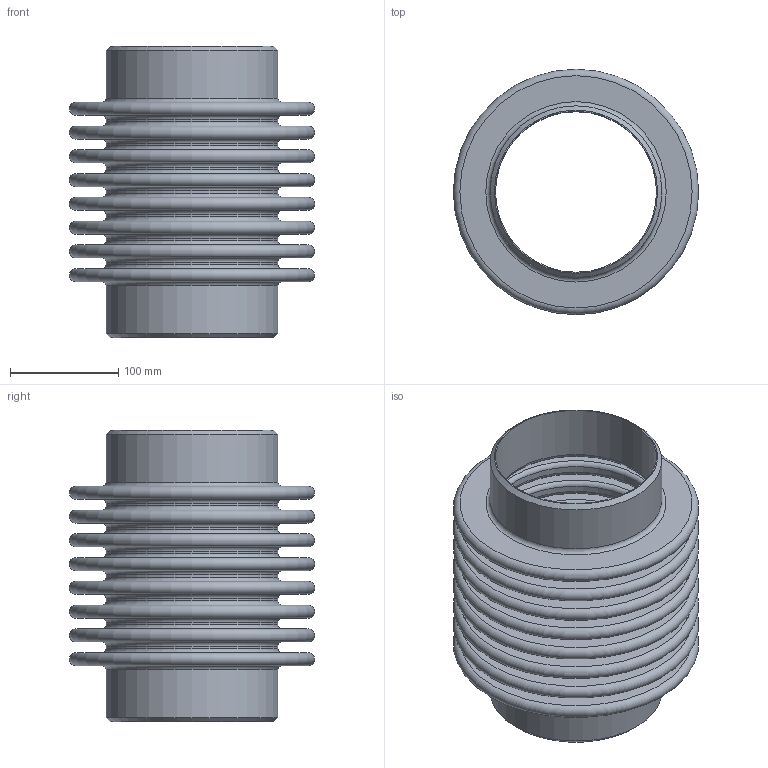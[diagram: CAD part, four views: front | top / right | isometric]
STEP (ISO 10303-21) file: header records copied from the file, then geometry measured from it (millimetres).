
FILE_DESCRIPTION(/* description */ ('D140-02126','CAx-IF Rec.Pracs.---Representation and Presentation of Product Manufacturing Information (PMI)---4.0---2014-10-13'),/* implementation_level */ '2;1');
FILE_NAME(/* name */ '',/* time_stamp */ '2026-04-13T21:34:24+03:00',/* author */ ('DN.RU'),/* organization */ ('DN.RU'),/* preprocessor_version */ 'ST-DEVELOPER v20',/* originating_system */ 'Autodesk Inventor 2025',/* authorisation */ '');
FILE_SCHEMA (('AP242_MANAGED_MODEL_BASED_3D_ENGINEERING_MIM_LF { 1 0 10303 442 1 1 4 }'));
Length unit declared in the file: millimetre
Products named in the file (1): CB-3131-W
Bounding box: 227 x 227 x 270 mm (x, y, z)
Volume: 1052115.5 mm3; surface area: 880877.8 mm2
Topology: 1 solids, 1 shells, 307 faces, 759 edges, 506 vertices
Faces by surface type: plane 134, bspline 85, torus 48, cylinder 38, cone 2
Full cylindrical faces by diameter (mm): 149 x2, 155 x7, 159 x9
Entity records: 13066 total; most frequent: CARTESIAN_POINT 5393, ORIENTED_EDGE 1518, DIRECTION 1379, EDGE_CURVE 759, AXIS2_PLACEMENT_3D 538, VERTEX_POINT 506, STYLED_ITEM 377, EDGE_LOOP 361
